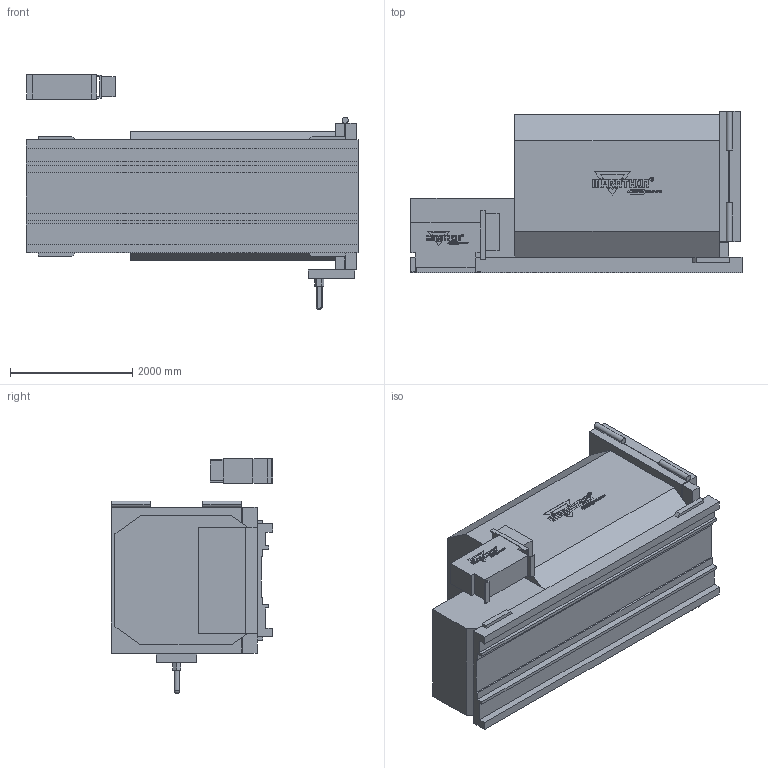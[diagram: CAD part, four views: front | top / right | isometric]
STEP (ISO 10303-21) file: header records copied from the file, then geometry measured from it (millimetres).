
FILE_DESCRIPTION((''),'2;1');
FILE_NAME('ASSLY_60970_ASM','2018-10-11T21:39:40',('10006800'),('Marathon Equipment'),'CREO PARAMETRIC BY PTC INC, 2017110','CREO PARAMETRIC BY PTC INC, 2017110','');
FILE_SCHEMA(('CONFIG_CONTROL_DESIGN'));
Products named in the file (3): STRUCTURE_60970; POWER_PACKK_60970; ASSLY_60970_ASM
Assembly tree (2 placements, depth 2):
  ASSLY_60970_ASM
    STRUCTURE_60970
    POWER_PACKK_60970
Bounding box: 5437.19 x 2641.6 x 3848.23 mm (x, y, z)
Volume: 20528458753.4 mm3; surface area: 83689166 mm2
Topology: 6 solids, 6 shells, 3029 faces, 8335 edges, 5551 vertices
Faces by surface type: plane 2799, cylinder 228, sphere 2
Entity records: 94744 total; most frequent: CARTESIAN_POINT 16959, ORIENTED_EDGE 16668, DIRECTION 14854, EDGE_CURVE 8334, VECTOR 7870, LINE 7870, VERTEX_POINT 5551, AXIS2_PLACEMENT_3D 3492
